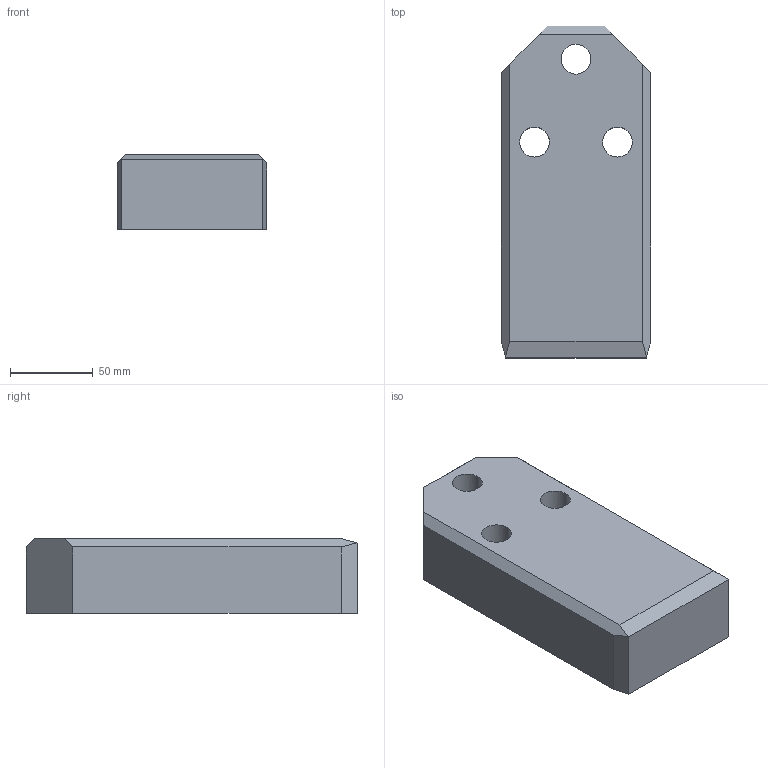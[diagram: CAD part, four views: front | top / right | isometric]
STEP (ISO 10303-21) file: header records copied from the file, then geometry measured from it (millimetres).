
FILE_DESCRIPTION(('CATIA V5 STEP Exchange'),'2;1');
FILE_NAME('C:\Users\borellobunino\Desktop\3D X SITO CF\A927\GSB_OILLESS_G2290509020045\STEP-2.03\A927-90X200X45.stp','2019-07-14T20:04:23+00:00',('none'),('none'),'CATIA Version 5 Release 20 GA (IN-10)','CATIA V5 STEP AP203','none');
FILE_SCHEMA(('CONFIG_CONTROL_DESIGN'));
Length unit declared in the file: millimetre
Products named in the file (1): A927-90X200X45
Bounding box: 90 x 200 x 45 mm (x, y, z)
Volume: 715434.7 mm3; surface area: 64859.1 mm2
Topology: 1 solids, 1 shells, 35 faces, 84 edges, 54 vertices
Faces by surface type: plane 17, cylinder 12, cone 6
Entity records: 1296 total; most frequent: CARTESIAN_POINT 450, ORIENTED_EDGE 168, DIRECTION 142, EDGE_CURVE 84, AXIS2_PLACEMENT_3D 54, VECTOR 54, LINE 54, VERTEX_POINT 54
